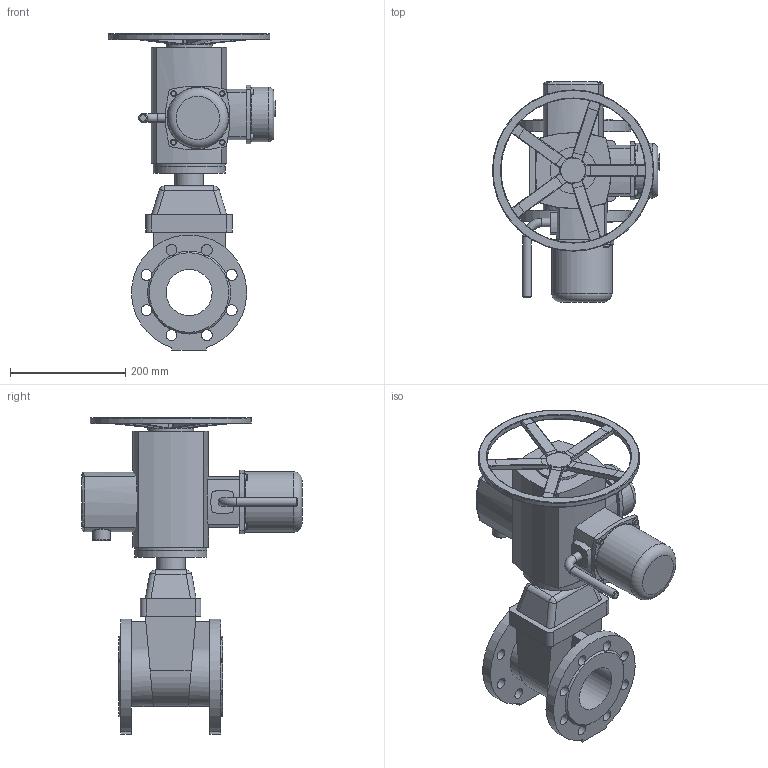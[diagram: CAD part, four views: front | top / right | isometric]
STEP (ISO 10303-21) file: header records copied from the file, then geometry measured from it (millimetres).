
FILE_DESCRIPTION(('STEP AP203'), '1');
FILE_NAME('青溻桄赅 47GVA DN80 PN10_PN16+MT903.Z10', '', ('UNSPECIFIED'), ('UNSPECIFIED'), 'ASCON STEP Converter 1.6', 'ASCON Math Kernel', '');
FILE_SCHEMA(('CONFIG_CONTROL_DESIGN'));
Length unit declared in the file: millimetre
Bounding box: 290 x 382 x 549 mm (x, y, z)
Volume: 9700577.2 mm3; surface area: 671334.9 mm2
Topology: 2 solids, 2 shells, 390 faces, 975 edges, 599 vertices
Faces by surface type: cylinder 191, plane 161, torus 25, cone 7, bspline 6
Full cylindrical faces by diameter (mm): 8.376 x4, 10 x8, 12 x4, 15 x2, 19 x16, 20 x1, 24 x1, 28 x2, 29.22 x1, 30 x1, 50 x1, 70 x2, 80 x2, 95 x1, 105 x1, 125 x2, 280 x1
Entity records: 20015 total; most frequent: CARTESIAN_POINT 8274, ORIENTED_EDGE 1764, DIRECTION 1697, EDGE_CURVE 882, AXIS2_PLACEMENT_3D 678, VERTEX_POINT 591, EDGE_LOOP 537, FACE_BOUND 403
